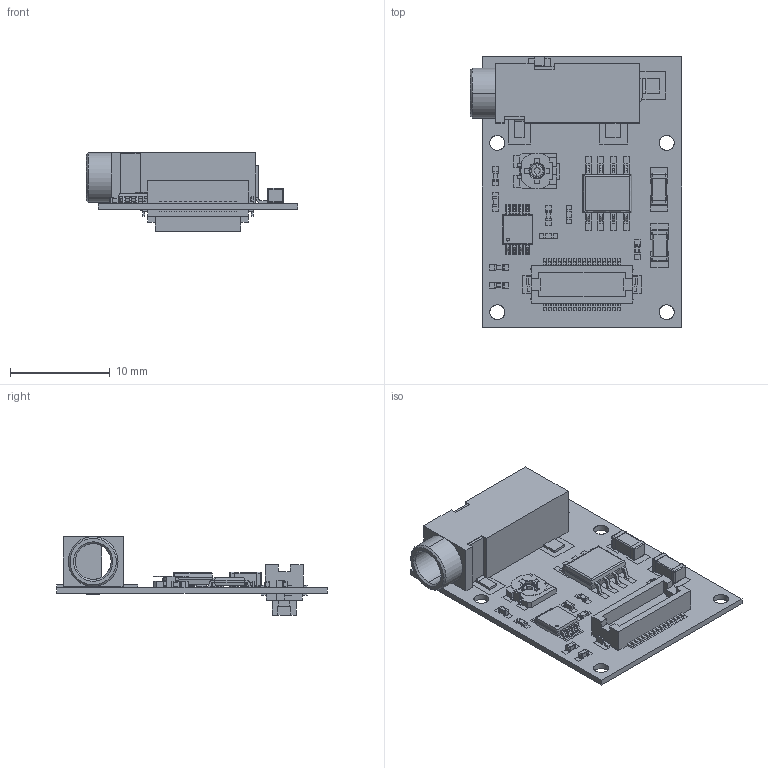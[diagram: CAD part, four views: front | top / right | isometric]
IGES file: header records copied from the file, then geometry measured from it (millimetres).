
Global section: file name: Filename.iges; native system: Open CASCADE 7.4; preprocessor: Open CASCADE IGES processor 7.4; date: 20200721.113707; units: millimetre
Bounding box: 21.2 x 27.14 x 7.9 mm (x, y, z)
Surface area: 4108.9 mm2 (no closed solid volume)
Topology: 0 solids, 0 shells, 3013 faces, 15872 edges, 20187 vertices
Faces by surface type: plane 2313, revolution 578, bspline 122
